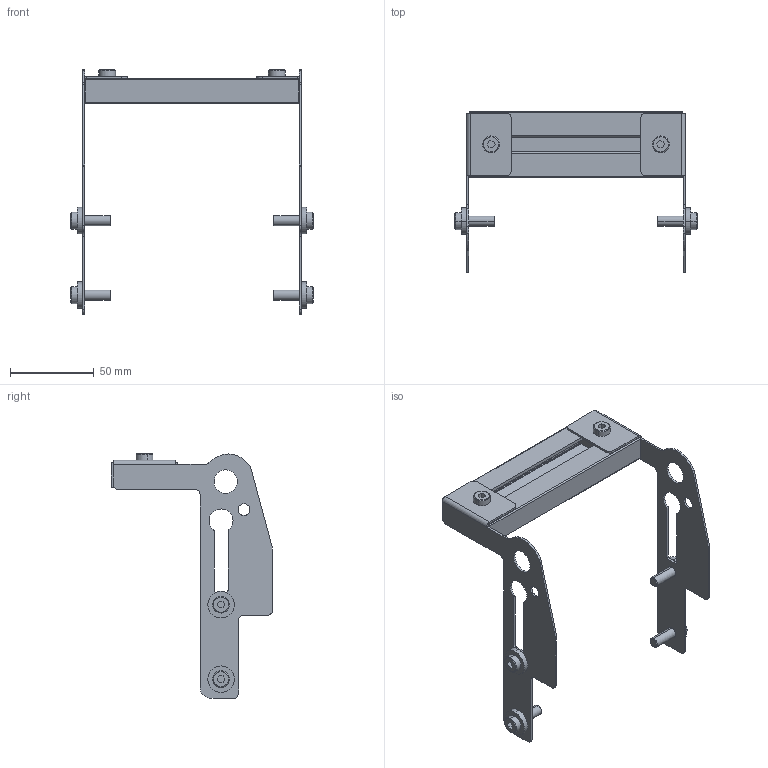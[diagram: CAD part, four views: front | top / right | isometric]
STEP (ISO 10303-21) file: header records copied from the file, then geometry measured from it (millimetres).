
FILE_DESCRIPTION((''),'2;1');
FILE_NAME('207215-04_ASM','2018-04-06T',('james.horst'),(''),'PRO/ENGINEER BY PARAMETRIC TECHNOLOGY CORPORATION, 2012420','PRO/ENGINEER BY PARAMETRIC TECHNOLOGY CORPORATION, 2012420','');
FILE_SCHEMA(('CONFIG_CONTROL_DESIGN'));
Length unit declared in the file: inch
Products named in the file (9): 207132-RH; 9506XXM_950620M; 207217-WW_207217-04; 9506XXM_950612M; 605279P; 834-FASN-M6; 207132-LH; ASM0001_ASM; 207215-04_ASM
Assembly tree (16 placements, depth 3):
  207215-04_ASM
    ASM0001_ASM
      207132-RH
      9506XXM_950620M  x4
      207217-WW_207217-04
      9506XXM_950612M  x2
      605279P  x4
      834-FASN-M6  x2
      207132-LH
Bounding box: 144.55 x 96.26 x 145.81 mm (x, y, z)
Volume: 58968.6 mm3; surface area: 63626.6 mm2
Topology: 15 solids, 15 shells, 326 faces, 825 edges, 541 vertices
Faces by surface type: plane 154, cylinder 148, cone 24
Entity records: 7742 total; most frequent: CARTESIAN_POINT 1446, DIRECTION 1346, ORIENTED_EDGE 1238, EDGE_CURVE 619, AXIS2_PLACEMENT_3D 492, VERTEX_POINT 409, VECTOR 362, LINE 362
